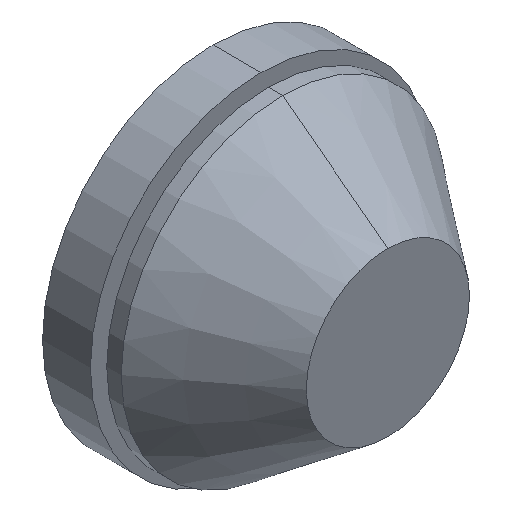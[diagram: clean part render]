
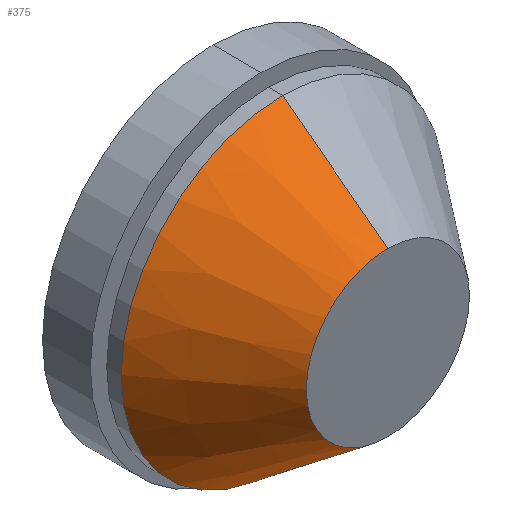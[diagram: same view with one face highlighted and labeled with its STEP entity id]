
A CAD part, isometric view. The second image highlights one B-rep face of the part: STEP entity #375.
In plain terms, the highlighted conical face has half-angle 37.198 degrees and reference radius 11.245 mm.
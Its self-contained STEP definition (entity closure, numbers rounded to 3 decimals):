
#9 = CARTESIAN_POINT ( 'NONE',  ( 0., 0., 11.245 ) ) ;
#14 = CARTESIAN_POINT ( 'NONE',  ( 0., 0., -11.245 ) ) ;
#18 = CARTESIAN_POINT ( 'NONE',  ( 0., 14.5, 22.25 ) ) ;
#20 = CARTESIAN_POINT ( 'NONE',  ( 0., 14.5, -22.25 ) ) ;
#40 = ORIENTED_EDGE ( 'NONE', *, *, #222, .F. ) ;
#42 = ORIENTED_EDGE ( 'NONE', *, *, #225, .T. ) ;
#56 = ORIENTED_EDGE ( 'NONE', *, *, #224, .F. ) ;
#58 = ORIENTED_EDGE ( 'NONE', *, *, #223, .T. ) ;
#76 = VERTEX_POINT ( 'NONE', #20 ) ;
#77 = VERTEX_POINT ( 'NONE', #9 ) ;
#79 = VERTEX_POINT ( 'NONE', #14 ) ;
#80 = VERTEX_POINT ( 'NONE', #18 ) ;
#96 = EDGE_LOOP ( 'NONE', ( #40, #56, #58, #42 ) ) ;
#109 = LINE ( 'NONE', #276, #114 ) ;
#112 = CIRCLE ( 'NONE', #353, 11.245 ) ;
#113 = LINE ( 'NONE', #270, #116 ) ;
#114 = VECTOR ( 'NONE', #264, 1000. ) ;
#115 = CIRCLE ( 'NONE', #354, 22.25 ) ;
#116 = VECTOR ( 'NONE', #268, 1000. ) ;
#132 = FACE_OUTER_BOUND ( 'NONE', #96, .T. ) ;
#142 = CONICAL_SURFACE ( 'NONE', #363, 11.245, 0.649 ) ;
#222 = EDGE_CURVE ( 'NONE', #79, #76, #109, .T. ) ;
#223 = EDGE_CURVE ( 'NONE', #77, #80, #113, .T. ) ;
#224 = EDGE_CURVE ( 'NONE', #77, #79, #112, .T. ) ;
#225 = EDGE_CURVE ( 'NONE', #80, #76, #115, .T. ) ;
#264 = DIRECTION ( 'NONE',  ( 0., 0.797, -0.605 ) ) ;
#265 = CARTESIAN_POINT ( 'NONE',  ( 0., 0., 0. ) ) ;
#268 = DIRECTION ( 'NONE',  ( 0., 0.797, 0.605 ) ) ;
#270 = CARTESIAN_POINT ( 'NONE',  ( 0., 0., 11.245 ) ) ;
#276 = CARTESIAN_POINT ( 'NONE',  ( 0., 0., -11.245 ) ) ;
#285 = CARTESIAN_POINT ( 'NONE',  ( 0., 0., 0. ) ) ;
#286 = DIRECTION ( 'NONE',  ( 0., 1., 0. ) ) ;
#290 = DIRECTION ( 'NONE',  ( 0., 0., 1. ) ) ;
#310 = DIRECTION ( 'NONE',  ( 0., -1., 0. ) ) ;
#312 = CARTESIAN_POINT ( 'NONE',  ( 0., 14.5, 0. ) ) ;
#324 = DIRECTION ( 'NONE',  ( 0., 0., -1. ) ) ;
#326 = DIRECTION ( 'NONE',  ( 0., -1., 0. ) ) ;
#330 = DIRECTION ( 'NONE',  ( 0., 0., -1. ) ) ;
#353 = AXIS2_PLACEMENT_3D ( 'NONE', #265, #326, #324 ) ;
#354 = AXIS2_PLACEMENT_3D ( 'NONE', #312, #310, #330 ) ;
#363 = AXIS2_PLACEMENT_3D ( 'NONE', #285, #286, #290 ) ;
#375 = ADVANCED_FACE ( 'NONE', ( #132 ), #142, .T. ) ;
